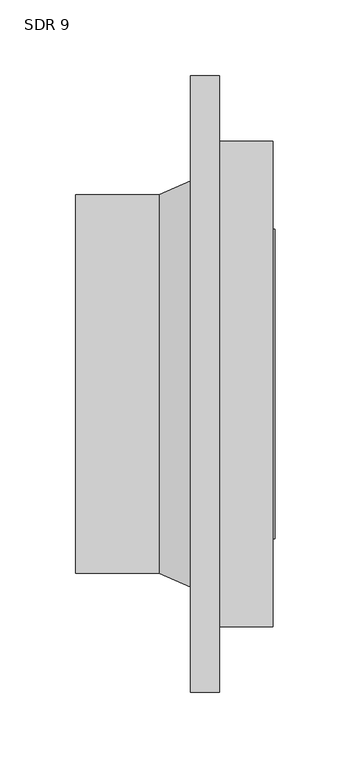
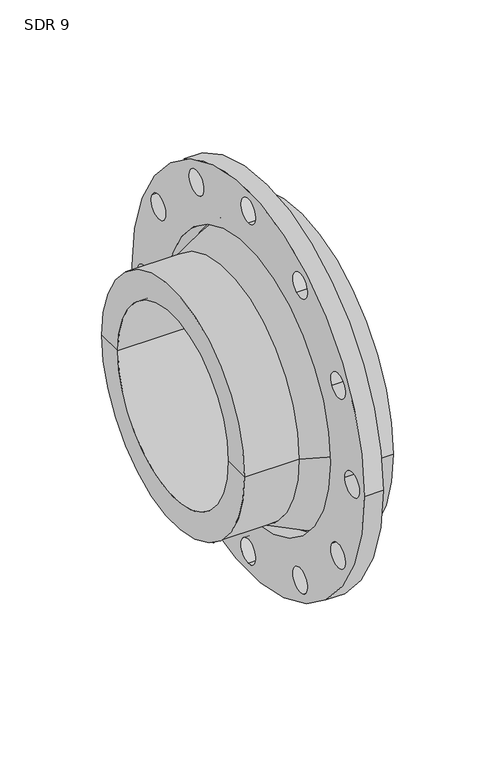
"""IFC4 building model written with IfcOpenShell, lengths in millimetres: valve geometry, Aquatherm - Flange Adapter Butt-Weld : SDR 9."""

import ifcopenshell
import ifcopenshell.guid

model = None  # the IFC model being written
_history = None  # IfcOwnerHistory: only IFC2X3 demands one
_inside = {}  # id of a spatial element -> (the spatial element, [elements in it])
_under = {}  # id of a project, library or spatial element -> (it, [spatial elements below it])
_declared = {}  # id of a project -> (the project, [libraries it declares])
_typed = {}  # id of a type object -> (the type object, [elements of that type])
_made_of = {}  # id of a material, layer set ... -> (it, [elements and type objects made of it])


def new_model(schema):
    """Start an empty IFC model of exactly this schema.

    Asked for "IFC4X3", IfcOpenShell would pick the latest addendum, in which some entities
    have other attributes; the version numbers below select the first issue.
    IFC2X3 requires an IfcOwnerHistory on every rooted entity: one is made here for all.
    """
    global model, _history
    if schema == "IFC4X3":
        model = ifcopenshell.file(schema_version=(4, 3, 0, 0))
    else:
        model = ifcopenshell.file(schema=schema)
    _inside.clear()
    _under.clear()
    _declared.clear()
    _typed.clear()
    _made_of.clear()
    _history = None
    if model.schema == "IFC2X3":
        org = make("IfcOrganization", Name="unknown")
        user = make(
            "IfcPersonAndOrganization",
            ThePerson=make("IfcPerson", FamilyName="unknown"),
            TheOrganization=org,
        )
        app = make(
            "IfcApplication",
            ApplicationDeveloper=org,
            Version="unknown",
            ApplicationFullName="unknown",
            ApplicationIdentifier="unknown",
        )
        _history = make(
            "IfcOwnerHistory",
            OwningUser=user,
            OwningApplication=app,
            ChangeAction="ADDED",
            CreationDate=0,
        )
    return model


def make(cls, **values):
    """One entity of the class cls with the attributes given. An attribute that is None is left unset."""
    return model.create_entity(
        cls, **{name: value for name, value in values.items() if value is not None}
    )


def rooted(cls, **values):
    """An entity with a GlobalId (a new one), such as an element, a storey or a relation."""
    return make(cls, GlobalId=ifcopenshell.guid.new(), OwnerHistory=_history, **values)


def si_unit(unit_type, name, prefix=None):
    """IfcSIUnit, for example si_unit("LENGTHUNIT", "METRE", prefix="MILLI")."""
    return make("IfcSIUnit", UnitType=unit_type, Prefix=prefix, Name=name)


def assignment(units):
    """IfcUnitAssignment: the units of a project."""
    return None if units is None else make("IfcUnitAssignment", Units=units)


def point(xyz):
    """IfcCartesianPoint."""
    return None if xyz is None else make("IfcCartesianPoint", Coordinates=xyz)


def direction(xyz):
    """IfcDirection."""
    return None if xyz is None else make("IfcDirection", DirectionRatios=xyz)


def frame(location, z_axis=None, x_axis=None):
    """IfcAxis2Placement3D, a coordinate frame: its origin and axes. An axis left out is left unset."""
    return make(
        "IfcAxis2Placement3D",
        Location=point(location),
        Axis=direction(z_axis),
        RefDirection=direction(x_axis),
    )


def frame_2d(location, x_axis=None):
    """IfcAxis2Placement2D, a coordinate frame in the plane: its origin and x axis."""
    return make(
        "IfcAxis2Placement2D", Location=point(location), RefDirection=direction(x_axis)
    )


def origin():
    """The frame at (0, 0, 0) with its axes left unset."""
    return frame((0.0, 0.0, 0.0))


def origin_2d():
    """The frame at (0, 0) in the plane with its x axis left unset."""
    return frame_2d((0.0, 0.0))


def place(relative_to, where):
    """IfcLocalPlacement: puts the frame where relative to a parent placement (None: the world)."""
    return make(
        "IfcLocalPlacement", PlacementRelTo=relative_to, RelativePlacement=where
    )


def context(
    kind, dimensions, precision=None, world=None, true_north=None, identifier=None
):
    """IfcGeometricRepresentationContext, for example the 3D "Model" context."""
    return make(
        "IfcGeometricRepresentationContext",
        ContextIdentifier=identifier,
        ContextType=kind,
        CoordinateSpaceDimension=dimensions,
        Precision=precision,
        WorldCoordinateSystem=world,
        TrueNorth=true_north,
    )


def project(units=None, contexts=None):
    """IfcProject with its units and contexts."""
    return rooted(
        "IfcProject",
        Name="project",
        RepresentationContexts=contexts,
        UnitsInContext=assignment(units),
    )


def spatial(cls, under=None, at=None, **own):
    """A site, building, storey or space (cls), placed at a placement, below another one or the project."""
    s = rooted(cls, ObjectPlacement=at, **own)
    if under is not None:
        _under.setdefault(under.id(), (under, []))[1].append(s)
    return s


def polyline(points):
    """IfcPolyline through the points."""
    return make("IfcPolyline", Points=[point(p) for p in points])


def circle_curve(where, radius):
    """IfcCircle in the frame where."""
    return make("IfcCircle", Position=where, Radius=radius)


def trimmed(basis, trim1, trim2, sense, master):
    """IfcTrimmedCurve: the piece of a basis curve between two trims."""
    return make(
        "IfcTrimmedCurve",
        BasisCurve=basis,
        Trim1=trim1,
        Trim2=trim2,
        SenseAgreement=sense,
        MasterRepresentation=master,
    )


def segment(curve, same_sense, transition):
    """IfcCompositeCurveSegment."""
    return make(
        "IfcCompositeCurveSegment",
        Transition=transition,
        SameSense=same_sense,
        ParentCurve=curve,
    )


def composite_curve(segments, self_intersect=None):
    """IfcCompositeCurve: segments joined end to end."""
    return make("IfcCompositeCurve", Segments=segments, SelfIntersect=self_intersect)


def outline(outer, holes=None, kind="AREA"):
    """IfcArbitraryClosedProfileDef: a profile drawn as a closed curve; with holes, ...WithVoids."""
    if holes is None:
        return make("IfcArbitraryClosedProfileDef", ProfileType=kind, OuterCurve=outer)
    return make(
        "IfcArbitraryProfileDefWithVoids",
        ProfileType=kind,
        OuterCurve=outer,
        InnerCurves=holes,
    )


def extrude(swept, where, along, depth):
    """IfcExtrudedAreaSolid: the profile swept, set in the frame where, extruded along a direction by depth."""
    return make(
        "IfcExtrudedAreaSolid",
        SweptArea=swept,
        Position=where,
        ExtrudedDirection=direction(along),
        Depth=depth,
    )


def shape(context_of_items, identifier, shape_type, items):
    """IfcShapeRepresentation: the items that make up one representation, for example the "Body"."""
    return make(
        "IfcShapeRepresentation",
        ContextOfItems=context_of_items,
        RepresentationIdentifier=identifier,
        RepresentationType=shape_type,
        Items=items,
    )


def source(mapping_origin, context_of_items, identifier, shape_type, items):
    """IfcRepresentationMap: a shape defined once, which mapped items show again and again."""
    return make(
        "IfcRepresentationMap",
        MappingOrigin=mapping_origin,
        MappedRepresentation=shape(context_of_items, identifier, shape_type, items),
    )


def transform(
    local_origin,
    x_axis=None,
    y_axis=None,
    z_axis=None,
    scale=None,
    scale2=None,
    scale3=None,
    uniform=True,
):
    """IfcCartesianTransformationOperator3D, or its non-uniform kind. x_axis, y_axis, z_axis: its Axis1, 2, 3."""
    if uniform:
        return make(
            "IfcCartesianTransformationOperator3D",
            Axis1=direction(x_axis),
            Axis2=direction(y_axis),
            LocalOrigin=point(local_origin),
            Scale=scale,
            Axis3=direction(z_axis),
        )
    return make(
        "IfcCartesianTransformationOperator3DnonUniform",
        Axis1=direction(x_axis),
        Axis2=direction(y_axis),
        LocalOrigin=point(local_origin),
        Scale=scale,
        Axis3=direction(z_axis),
        Scale2=scale2,
        Scale3=scale3,
    )


def mapped(mapping_source, mapping_target):
    """IfcMappedItem: shows the shape of a source again, moved by a transform."""
    return make(
        "IfcMappedItem", MappingSource=mapping_source, MappingTarget=mapping_target
    )


def made_of(thing, what):
    """Note that an element or type object is made of a material, layer set ...; save() writes the relation."""
    if what is not None:
        _made_of.setdefault(what.id(), (what, []))[1].append(thing)
    return thing


def element(
    cls,
    number,
    at=None,
    inside=None,
    cuts=None,
    type_object=None,
    material=None,
    context=None,
    identifier="Body",
    shape_type=None,
    held_by="IfcProductDefinitionShape",
    body=None,
    shapes=None,
    **own,
):
    """One element of the class cls, such as IfcWall. Its Tag is "e" and its number.

    at: its placement. inside: the storey or other place that contains it. cuts: it is an
    opening in that element (IfcRelVoidsElement). A single representation is given by context,
    identifier, shape_type and body (its items); several are given by shapes. held_by: the class
    of the entity that holds the representations. save() writes the other relations.
    """
    e = rooted(cls, Tag="e%d" % number, ObjectPlacement=at, **own)
    if body is not None:
        shapes = [shape(context, identifier, shape_type, body)]
    if shapes is not None:
        e.Representation = make(held_by, Representations=shapes)
    if inside is not None:
        _inside.setdefault(inside.id(), (inside, []))[1].append(e)
    if cuts is not None:
        rooted(
            "IfcRelVoidsElement", RelatingBuildingElement=cuts, RelatedOpeningElement=e
        )
    if type_object is not None:
        _typed.setdefault(type_object.id(), (type_object, []))[1].append(e)
    return made_of(e, material)


def aggregate(whole, parts):
    """IfcRelAggregates: a whole, such as a stair, and the parts it consists of."""
    return rooted("IfcRelAggregates", RelatingObject=whole, RelatedObjects=parts)


def save(model, path):
    """Write the relations noted so far, then the file.

    IfcRelAggregates (storeys below a building ...), IfcRelContainedInSpatialStructure (elements
    in a storey), IfcRelDefinesByType, IfcRelAssociatesMaterial and IfcRelDeclares: one each for
    every whole, place, type object, material and project.
    """
    for whole, parts in _under.values():
        aggregate(whole, parts)
    for where, things in _inside.values():
        rooted(
            "IfcRelContainedInSpatialStructure",
            RelatedElements=things,
            RelatingStructure=where,
        )
    for kind, things in _typed.values():
        rooted("IfcRelDefinesByType", RelatedObjects=things, RelatingType=kind)
    for what, things in _made_of.values():
        rooted("IfcRelAssociatesMaterial", RelatedObjects=things, RelatingMaterial=what)
    for by, libraries in _declared.values():
        rooted("IfcRelDeclares", RelatingContext=by, RelatedDefinitions=libraries)
    model.write(path)


def plane_surface(at):
    """IfcPlane: the flat surface through the origin of the frame at, square to its z axis."""
    return make("IfcPlane", Position=at)


def cylinder_surface(at, radius):
    """IfcCylindricalSurface: all points at the distance radius from the z axis of the frame at."""
    return make("IfcCylindricalSurface", Position=at, Radius=radius)


def revolved_surface(curve, axis_point, axis_direction):
    """IfcSurfaceOfRevolution: the curve turned about the line through axis_point along axis_direction."""
    return make(
        "IfcSurfaceOfRevolution",
        SweptCurve=make("IfcArbitraryOpenProfileDef", ProfileType="CURVE", Curve=curve),
        AxisPosition=make("IfcAxis1Placement", Location=point(axis_point), Axis=direction(axis_direction)),
    )


def advanced_brep(points, edges, surfaces, faces):
    """IfcAdvancedBrep: a solid bounded by faces that lie on surfaces and meet in shared edges.

    An edge is (start, end): straight between two places in points (the first is 0);
    or (start, end, curve); or (start, end, curve, False) where it runs against its curve.
    A face is (place in surfaces, loops), or (place, loops, False) where it looks against
    its surface's normal. A loop lists edges by number (the first is 1), with a minus sign
    where the edge is run from its end to its start. The first loop is the outer one.
    """
    corners = [point(p) for p in points]
    vertices = [make("IfcVertexPoint", VertexGeometry=c) for c in corners]
    made = []
    for start, end, *more in edges:
        made.append(
            make(
                "IfcEdgeCurve",
                EdgeStart=vertices[start],
                EdgeEnd=vertices[end],
                EdgeGeometry=more[0] if more else make("IfcPolyline", Points=[corners[start], corners[end]]),
                SameSense=more[1] if len(more) > 1 else True,
            )
        )
    hull = []
    for where, loops, *sense in faces:
        bounds = []
        for j, loop in enumerate(loops):
            ring = [make("IfcOrientedEdge", EdgeElement=made[abs(k) - 1], Orientation=k > 0) for k in loop]
            bounds.append(
                make(
                    "IfcFaceOuterBound" if j == 0 else "IfcFaceBound",
                    Bound=make("IfcEdgeLoop", EdgeList=ring),
                    Orientation=True,
                )
            )
        hull.append(make("IfcAdvancedFace", Bounds=bounds, FaceSurface=surfaces[where], SameSense=sense[0] if sense else True))
    return make("IfcAdvancedBrep", Outer=make("IfcClosedShell", CfsFaces=hull))


def sdr_9_3436c30f(model_context):
    return source(origin(), model_context, "Body", "SolidModel", [
        extrude(outline(composite_curve([segment(trimmed(circle_curve(origin_2d(), 203.2), [point((-203.2, 0.0))], [point((203.2, 0.0))], False, "CARTESIAN"), True, "CONTINUOUS"), segment(trimmed(circle_curve(origin_2d(), 203.2), [point((203.2, 0.0))], [point((-203.2, 0.0))], False, "CARTESIAN"), True, "CONTINUOUS")], self_intersect=False), holes=[composite_curve([segment(trimmed(circle_curve(origin_2d(), 143.51), [point((-143.51, 0.0))], [point((143.51, 0.0))], True, "CARTESIAN"), True, "CONTINUOUS"), segment(trimmed(circle_curve(origin_2d(), 143.51), [point((143.51, 0.0))], [point((-143.51, 0.0))], True, "CARTESIAN"), True, "CONTINUOUS")], self_intersect=False), composite_curve([segment(trimmed(circle_curve(frame_2d((181.61, 0.0)), 12.7), [point((168.91, 0.0))], [point((194.31, 0.0))], True, "CARTESIAN"), True, "CONTINUOUS"), segment(trimmed(circle_curve(frame_2d((181.61, 0.0)), 12.7), [point((194.31, 0.0))], [point((168.91, 0.0))], True, "CARTESIAN"), True, "CONTINUOUS")], self_intersect=False), composite_curve([segment(trimmed(circle_curve(frame_2d((157.2788736, -90.805)), 12.7), [point((146.280351, -84.455))], [point((168.2773962, -97.155))], True, "CARTESIAN"), True, "CONTINUOUS"), segment(trimmed(circle_curve(frame_2d((157.2788736, -90.805)), 12.7), [point((168.2773962, -97.155))], [point((146.280351, -84.455))], True, "CARTESIAN"), True, "CONTINUOUS")], self_intersect=False), composite_curve([segment(trimmed(circle_curve(frame_2d((157.2788736, 90.805)), 12.7), [point((146.280351, 84.455))], [point((168.2773962, 97.155))], True, "CARTESIAN"), True, "CONTINUOUS"), segment(trimmed(circle_curve(frame_2d((157.2788736, 90.805)), 12.7), [point((168.2773962, 97.155))], [point((146.280351, 84.455))], True, "CARTESIAN"), True, "CONTINUOUS")], self_intersect=False), composite_curve([segment(trimmed(circle_curve(frame_2d((90.805, 157.2788736)), 12.7), [point((84.455, 146.280351))], [point((97.155, 168.2773962))], True, "CARTESIAN"), True, "CONTINUOUS"), segment(trimmed(circle_curve(frame_2d((90.805, 157.2788736)), 12.7), [point((97.155, 168.2773962))], [point((84.455, 146.280351))], True, "CARTESIAN"), True, "CONTINUOUS")], self_intersect=False), composite_curve([segment(trimmed(circle_curve(frame_2d((0.0, 181.61)), 12.7), [point((0.0, 168.91))], [point((0.0, 194.31))], True, "CARTESIAN"), True, "CONTINUOUS"), segment(trimmed(circle_curve(frame_2d((0.0, 181.61)), 12.7), [point((0.0, 194.31))], [point((0.0, 168.91))], True, "CARTESIAN"), True, "CONTINUOUS")], self_intersect=False), composite_curve([segment(trimmed(circle_curve(frame_2d((-90.805, 157.2788736)), 12.7), [point((-84.455, 146.280351))], [point((-97.155, 168.2773962))], True, "CARTESIAN"), True, "CONTINUOUS"), segment(trimmed(circle_curve(frame_2d((-90.805, 157.2788736)), 12.7), [point((-97.155, 168.2773962))], [point((-84.455, 146.280351))], True, "CARTESIAN"), True, "CONTINUOUS")], self_intersect=False), composite_curve([segment(trimmed(circle_curve(frame_2d((-157.2788736, 90.805)), 12.7), [point((-146.280351, 84.455))], [point((-168.2773962, 97.155))], True, "CARTESIAN"), True, "CONTINUOUS"), segment(trimmed(circle_curve(frame_2d((-157.2788736, 90.805)), 12.7), [point((-168.2773962, 97.155))], [point((-146.280351, 84.455))], True, "CARTESIAN"), True, "CONTINUOUS")], self_intersect=False), composite_curve([segment(trimmed(circle_curve(frame_2d((-181.61, 0.0)), 12.7), [point((-168.91, 0.0))], [point((-194.31, 0.0))], True, "CARTESIAN"), True, "CONTINUOUS"), segment(trimmed(circle_curve(frame_2d((-181.61, 0.0)), 12.7), [point((-194.31, 0.0))], [point((-168.91, 0.0))], True, "CARTESIAN"), True, "CONTINUOUS")], self_intersect=False), composite_curve([segment(trimmed(circle_curve(frame_2d((-157.2788736, -90.805)), 12.7), [point((-146.280351, -84.455))], [point((-168.2773962, -97.155))], True, "CARTESIAN"), True, "CONTINUOUS"), segment(trimmed(circle_curve(frame_2d((-157.2788736, -90.805)), 12.7), [point((-168.2773962, -97.155))], [point((-146.280351, -84.455))], True, "CARTESIAN"), True, "CONTINUOUS")], self_intersect=False), composite_curve([segment(trimmed(circle_curve(frame_2d((-90.805, -157.2788736)), 12.7), [point((-84.455, -146.280351))], [point((-97.155, -168.2773962))], True, "CARTESIAN"), True, "CONTINUOUS"), segment(trimmed(circle_curve(frame_2d((-90.805, -157.2788736)), 12.7), [point((-97.155, -168.2773962))], [point((-84.455, -146.280351))], True, "CARTESIAN"), True, "CONTINUOUS")], self_intersect=False), composite_curve([segment(trimmed(circle_curve(frame_2d((0.0, -181.61)), 12.7), [point((0.0, -168.91))], [point((0.0, -194.31))], True, "CARTESIAN"), True, "CONTINUOUS"), segment(trimmed(circle_curve(frame_2d((0.0, -181.61)), 12.7), [point((0.0, -194.31))], [point((0.0, -168.91))], True, "CARTESIAN"), True, "CONTINUOUS")], self_intersect=False), composite_curve([segment(trimmed(circle_curve(frame_2d((90.805, -157.2788736)), 12.7), [point((84.455, -146.280351))], [point((97.155, -168.2773962))], True, "CARTESIAN"), True, "CONTINUOUS"), segment(trimmed(circle_curve(frame_2d((90.805, -157.2788736)), 12.7), [point((97.155, -168.2773962))], [point((84.455, -146.280351))], True, "CARTESIAN"), True, "CONTINUOUS")], self_intersect=False)]), frame((-19.05, 0.0, 0.0), z_axis=(1.0, 0.0, 0.0), x_axis=(0.0, 1.0, 0.0)), (0.0, 0.0, 1.0), 19.05),
        advanced_brep(
        [(35.052, 160.02, 0.0), (35.052, -160.02, 0.0), (0.0, -160.02, 0.0), (0.0, 160.02, 0.0), (36.6395, 97.028, 0.0), (36.6395, -97.028, 0.0), (36.6395, -102.108, 0.0), (36.6395, 102.108, 0.0), (-94.996, 97.028, 0.0), (-94.996, -97.028, 0.0), (-94.996, 124.968, 0.0), (-94.996, -124.968, 0.0), (-39.878, 124.968, 0.0), (-39.878, -124.968, 0.0), (0.0, -142.24, 0.0), (0.0, 142.24, 0.0), (35.052, 102.108, 0.0), (35.052, -102.108, 0.0)],
        [
            (0, 1, circle_curve(frame((35.052, 0.0, 0.0), z_axis=(-1.0, 0.0, 0.0), x_axis=(0.0, -1.0, 0.0)), 160.02)),
            (1, 2),
            (2, 3, circle_curve(frame((0.0, 0.0, 0.0), z_axis=(1.0, 0.0, 0.0), x_axis=(0.0, -1.0, 0.0)), 160.02)),
            (3, 0),
            (1, 0, circle_curve(frame((35.052, 0.0, 0.0), z_axis=(-1.0, 0.0, 0.0), x_axis=(0.0, -1.0, 0.0)), 160.02)),
            (3, 2, circle_curve(frame((0.0, 0.0, 0.0), z_axis=(1.0, 0.0, 0.0), x_axis=(0.0, -1.0, 0.0)), 160.02)),
            (4, 5, circle_curve(frame((36.6395, 0.0, 0.0), z_axis=(-1.0, 0.0, 0.0), x_axis=(0.0, -1.0, 0.0)), 97.028)),
            (5, 6),
            (6, 7, circle_curve(frame((36.6395, 0.0, 0.0), z_axis=(1.0, 0.0, 0.0), x_axis=(0.0, -1.0, 0.0)), 102.108)),
            (7, 4),
            (5, 4, circle_curve(frame((36.6395, 0.0, 0.0), z_axis=(-1.0, 0.0, 0.0), x_axis=(0.0, -1.0, 0.0)), 97.028)),
            (7, 6, circle_curve(frame((36.6395, 0.0, 0.0), z_axis=(1.0, 0.0, 0.0), x_axis=(0.0, -1.0, 0.0)), 102.108)),
            (8, 9, circle_curve(frame((-94.996, 0.0, 0.0), z_axis=(-1.0, 0.0, 0.0), x_axis=(0.0, -1.0, 0.0)), 97.028)),
            (9, 5),
            (4, 8),
            (9, 8, circle_curve(frame((-94.996, 0.0, 0.0), z_axis=(-1.0, 0.0, 0.0), x_axis=(0.0, -1.0, 0.0)), 97.028)),
            (10, 11, circle_curve(frame((-94.996, 0.0, 0.0), z_axis=(-1.0, 0.0, 0.0), x_axis=(0.0, -1.0, 0.0)), 124.968)),
            (11, 9),
            (8, 10),
            (11, 10, circle_curve(frame((-94.996, 0.0, 0.0), z_axis=(-1.0, 0.0, 0.0), x_axis=(0.0, -1.0, 0.0)), 124.968)),
            (12, 13, circle_curve(frame((-39.878, 0.0, 0.0), z_axis=(-1.0, 0.0, 0.0), x_axis=(0.0, -1.0, 0.0)), 124.968)),
            (13, 11),
            (10, 12),
            (13, 12, circle_curve(frame((-39.878, 0.0, 0.0), z_axis=(-1.0, 0.0, 0.0), x_axis=(0.0, -1.0, 0.0)), 124.968)),
            (2, 14),
            (14, 15, circle_curve(frame((0.0, 0.0, 0.0), z_axis=(1.0, 0.0, 0.0), x_axis=(0.0, -1.0, 0.0)), 142.24)),
            (15, 3),
            (15, 14, circle_curve(frame((0.0, 0.0, 0.0), z_axis=(1.0, 0.0, 0.0), x_axis=(0.0, -1.0, 0.0)), 142.24)),
            (16, 17, circle_curve(frame((35.052, 0.0, 0.0), z_axis=(-1.0, 0.0, 0.0), x_axis=(0.0, -1.0, 0.0)), 102.108)),
            (17, 1),
            (0, 16),
            (17, 16, circle_curve(frame((35.052, 0.0, 0.0), z_axis=(-1.0, 0.0, 0.0), x_axis=(0.0, -1.0, 0.0)), 102.108)),
            (6, 17),
            (16, 7),
            (14, 13),
            (12, 15),
        ],
        [
            cylinder_surface(frame((1475.6909321, 0.0, 0.0), z_axis=(1.0, 0.0, 0.0), x_axis=(0.0, -1.0, 0.0)), 160.02),
            plane_surface(frame((36.6395, 0.0, 0.0), z_axis=(1.0, 0.0, 0.0), x_axis=(0.0, -1.0, 0.0))),
            revolved_surface(polyline([(36.6395, -97.028, 0.0), (-94.9960000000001, -97.028, 0.0)]), (1475.6909321, 0.0, 0.0), (1.0, 0.0, 0.0)),
            plane_surface(frame((-94.996, 0.0, 0.0), z_axis=(-1.0, 0.0, 0.0), x_axis=(0.0, -1.0, 0.0))),
            cylinder_surface(frame((1475.6909321, 0.0, 0.0), z_axis=(1.0, 0.0, 0.0), x_axis=(0.0, -1.0, 0.0)), 124.968),
            plane_surface(frame((0.0, 0.0, 0.0), z_axis=(-1.0, 0.0, 0.0), x_axis=(0.0, -1.0, 0.0))),
            plane_surface(frame((35.052, 0.0, 0.0), z_axis=(1.0, 0.0, 0.0), x_axis=(0.0, -1.0, 0.0))),
            cylinder_surface(frame((1475.6909321, 0.0, 0.0), z_axis=(1.0, 0.0, 0.0), x_axis=(0.0, -1.0, 0.0)), 102.108),
            revolved_surface(polyline([(-39.878, -124.968, 0.0), (0.0, -142.24, 0.0)]), (1475.6909321, 0.0, 0.0), (1.0, 0.0, 0.0)),
        ],
        [
            (0, [[1, 2, 3, 4]]),
            (0, [[5, -4, 6, -2]]),
            (1, [[7, 8, 9, 10]]),
            (1, [[11, -10, 12, -8]]),
            (2, [[13, 14, -7, 15]]),
            (2, [[16, -15, -11, -14]]),
            (3, [[17, 18, -13, 19]]),
            (3, [[20, -19, -16, -18]]),
            (4, [[21, 22, -17, 23]]),
            (4, [[24, -23, -20, -22]]),
            (5, [[-3, 25, 26, 27]]),
            (5, [[-6, -27, 28, -25]]),
            (6, [[29, 30, -1, 31]]),
            (6, [[32, -31, -5, -30]]),
            (7, [[-9, 33, -29, 34]]),
            (7, [[-12, -34, -32, -33]]),
            (8, [[-26, 35, -21, 36]]),
            (8, [[-28, -36, -24, -35]]),
        ],
    ),
    ])


if __name__ == "__main__":
    model = new_model("IFC4")
    model_context = context("Model", 3, world=origin())
    ifc_project = project(units=[si_unit("LENGTHUNIT", "METRE", prefix="MILLI")], contexts=[model_context])
    site = spatial("IfcSite", under=ifc_project)
    building = spatial("IfcBuilding", under=site)
    placement = place(None, origin())
    sdr_9_shape = sdr_9_3436c30f(model_context)
    element("IfcValve", 1, ObjectType="Aquatherm - Flange Adapter Butt-Weld : SDR 9", at=placement, inside=building, context=model_context, shape_type="MappedRepresentation", body=[
        mapped(sdr_9_shape, transform((0.0, 0.0, 0.0), x_axis=(1.0, 0.0, 0.0), y_axis=(0.0, 1.0, 0.0), z_axis=(0.0, 0.0, 1.0))),
    ])
    save(model, "model.ifc")
